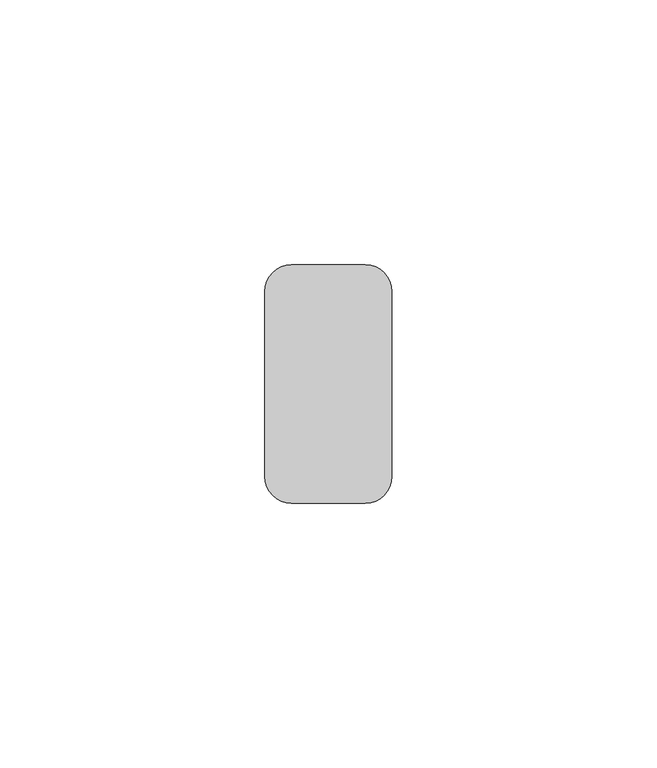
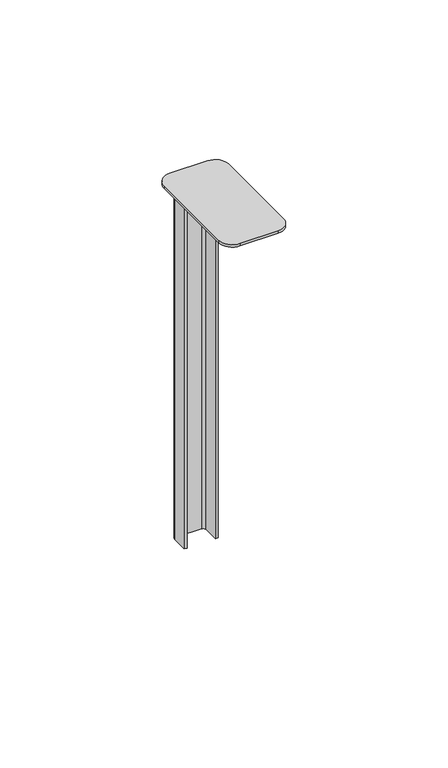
"""IFC4 building model written with IfcOpenShell, lengths in millimetres: proxy geometry, durlum_U1300 : durlum_U1300."""

from ifc_helpers import new_model, si_unit, point, frame, frame_2d, origin, place, context, project, spatial, polyline, circle_curve, trimmed, segment, composite_curve, outline, extrude, source, transform, mapped, element, save


def generic_models_44111244(model_context):
    return source(origin(), model_context, "Body", "SweptSolid", [
        extrude(outline(composite_curve([segment(trimmed(circle_curve(frame_2d((7.0, -5.0)), 5.0), [point((7.0, 0.0))], [point((12.0, -5.0))], False, "CARTESIAN"), True, "CONTINUOUS"), segment(polyline([(12.0, -5.0), (12.0, -40.0)]), True, "CONTINUOUS"), segment(trimmed(circle_curve(frame_2d((7.0, -40.0)), 5.0), [point((12.0, -40.0))], [point((7.0, -45.0))], False, "CARTESIAN"), True, "CONTINUOUS"), segment(polyline([(7.0, -45.0), (-7.0, -45.0)]), True, "CONTINUOUS"), segment(trimmed(circle_curve(frame_2d((-7.0, -40.0)), 5.0), [point((-7.0, -45.0))], [point((-12.0, -40.0))], False, "CARTESIAN"), True, "CONTINUOUS"), segment(polyline([(-12.0, -40.0), (-12.0, -5.0)]), True, "CONTINUOUS"), segment(trimmed(circle_curve(frame_2d((-7.0, -5.0)), 5.0), [point((-12.0, -5.0))], [point((-7.0, 0.0))], False, "CARTESIAN"), True, "CONTINUOUS"), segment(polyline([(-7.0, 0.0), (7.0, 0.0)]), True, "CONTINUOUS")], self_intersect=False)), frame((0.0, 0.0, 857.5875318), z_axis=(0.0, 0.0, 1.0), x_axis=(1.0, 0.0, 0.0)), (0.0, 0.0, 1.0), 1.0),
        extrude(outline(composite_curve([segment(trimmed(circle_curve(frame_2d((-4.25, -2.0)), 2.0), [point((-6.25, -2.0))], [point((-4.25, 0.0))], False, "CARTESIAN"), True, "CONTINUOUS"), segment(polyline([(-4.25, 0.0), (4.25, 0.0)]), True, "CONTINUOUS"), segment(trimmed(circle_curve(frame_2d((4.25, -2.0)), 2.0), [point((4.25, 0.0))], [point((6.25, -2.0))], False, "CARTESIAN"), True, "CONTINUOUS"), segment(polyline([(6.25, -2.0), (6.25, -8.0), (5.25, -8.0), (5.25, -2.0)]), True, "CONTINUOUS"), segment(trimmed(circle_curve(frame_2d((4.25, -2.0)), 1.0), [point((5.25, -2.0))], [point((4.25, -1.0))], True, "CARTESIAN"), True, "CONTINUOUS"), segment(polyline([(4.25, -1.0), (-4.25, -1.0)]), True, "CONTINUOUS"), segment(trimmed(circle_curve(frame_2d((-4.25, -2.0)), 1.0), [point((-4.25, -1.0))], [point((-5.25, -2.0))], True, "CARTESIAN"), True, "CONTINUOUS"), segment(polyline([(-5.25, -2.0), (-5.25, -8.0), (-6.25, -8.0), (-6.25, -2.0)]), True, "CONTINUOUS")], self_intersect=False)), frame((0.0, 0.0, 716.5875318), z_axis=(0.0, 0.0, 1.0), x_axis=(1.0, 0.0, 0.0)), (0.0, 0.0, 1.0), 141.0),
    ])


if __name__ == "__main__":
    model = new_model("IFC4")
    model_context = context("Model", 3, world=origin())
    ifc_project = project(units=[si_unit("LENGTHUNIT", "METRE", prefix="MILLI")], contexts=[model_context])
    site = spatial("IfcSite", under=ifc_project)
    building = spatial("IfcBuilding", under=site)
    placement = place(None, origin())
    generic_models_shape = generic_models_44111244(model_context)
    element("IfcBuildingElementProxy", 1, Name="durlum_U1300 : durlum_U1300", ObjectType="durlum_U1300 : durlum_U1300", at=placement, inside=building, context=model_context, shape_type="MappedRepresentation", body=[
        mapped(generic_models_shape, transform((0.0, 0.0, 0.0), x_axis=(1.0, 0.0, 0.0), y_axis=(0.0, 1.0, 0.0), z_axis=(0.0, 0.0, 1.0))),
    ])
    save(model, "model.ifc")
